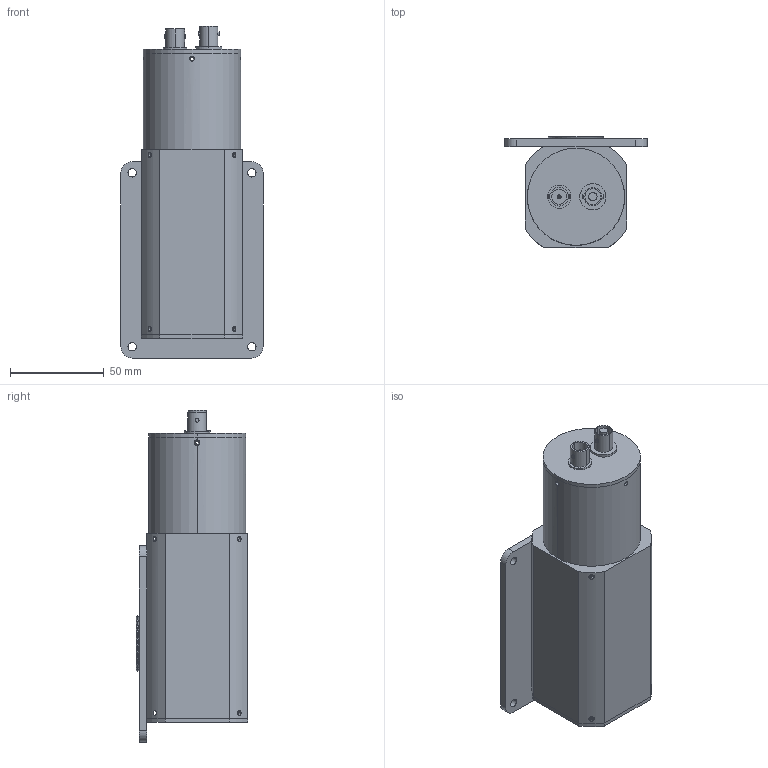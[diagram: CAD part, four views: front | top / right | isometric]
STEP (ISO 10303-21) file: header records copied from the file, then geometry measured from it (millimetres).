
FILE_DESCRIPTION (( 'STEP AP203' ), '1' );
FILE_NAME ('7ID101-CR131侧窗光电倍增管探测器.STEP', '2026-01-30T06:42:14', ( 'SF' ), ( '' ), 'SwSTEP 2.0', 'SolidWorks 2018', '' );
FILE_SCHEMA (( 'CONFIG_CONTROL_DESIGN' ));
Length unit declared in the file: millimetre
Products named in the file (1): 7ID101-CR131侧窗光电倍增管探测器
Bounding box: 76 x 59.5 x 177.5 mm (x, y, z)
Surface area: 65492.5 mm2 (no closed solid volume)
Topology: 0 solids, 27 shells, 241 faces, 729 edges, 492 vertices
Faces by surface type: plane 119, cylinder 76, cone 42, torus 4
Entity records: 9159 total; most frequent: CARTESIAN_POINT 2623, DIRECTION 1379, ORIENTED_EDGE 1165, EDGE_CURVE 717, AXIS2_PLACEMENT_3D 492, VERTEX_POINT 492, LINE 395, VECTOR 395
